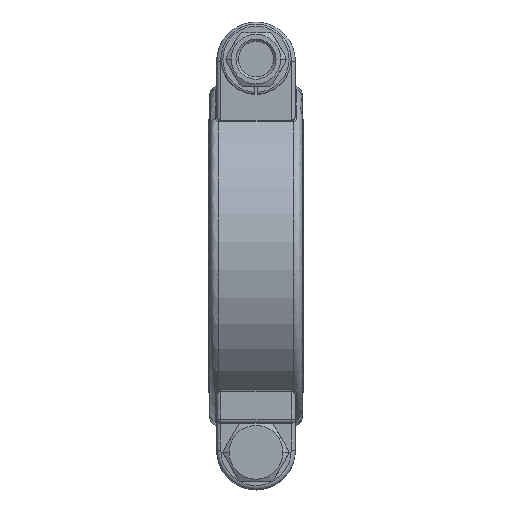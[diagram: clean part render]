
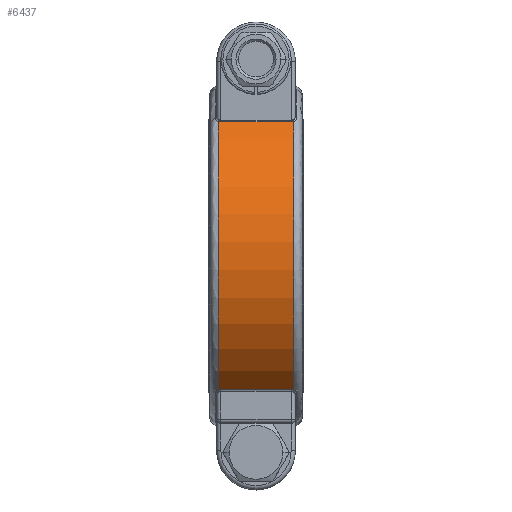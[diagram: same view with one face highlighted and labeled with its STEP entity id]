
A CAD part, top view. The second image highlights one B-rep face of the part: STEP entity #6437.
In plain terms, the highlighted cylindrical face has radius 41 mm (diameter 82 mm), a partial arc.
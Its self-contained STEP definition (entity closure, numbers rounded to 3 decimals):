
#2077=CARTESIAN_POINT('',(-2.35,0.,0.));
#2078=DIRECTION('',(-1.,0.,0.));
#2079=DIRECTION('',(0.,-0.792,0.611));
#2080=AXIS2_PLACEMENT_3D('',#2077,#2078,#2079);
#2082=CARTESIAN_POINT('',(-2.35,32.46,25.047));
#2163=CARTESIAN_POINT('',(-20.,-32.347,
25.193));
#2164=CARTESIAN_POINT('',(-20.053,-32.347,
25.193));
#2165=CARTESIAN_POINT('',(-20.16,-32.351,
25.187));
#2166=CARTESIAN_POINT('',(-20.323,-32.371,
25.161));
#2167=CARTESIAN_POINT('',(-20.486,-32.406,
25.116));
#2168=CARTESIAN_POINT('',(-20.595,-32.44,
25.072));
#2169=CARTESIAN_POINT('',(-20.65,-32.46,
25.047));
#2171=CARTESIAN_POINT('',(-20.65,0.,0.));
#2172=DIRECTION('',(-1.,0.,0.));
#2173=DIRECTION('',(0.,-0.792,0.611));
#2174=AXIS2_PLACEMENT_3D('',#2171,#2172,#2173);
#2176=CARTESIAN_POINT('',(-20.65,32.46,25.047));
#2177=CARTESIAN_POINT('',(-20.577,32.434,25.081));
#2178=CARTESIAN_POINT('',(-20.432,32.391,25.136));
#2179=CARTESIAN_POINT('',(-20.214,32.355,25.183));
#2180=CARTESIAN_POINT('',(-20.071,32.347,25.193));
#2181=CARTESIAN_POINT('',(-20.,32.347,25.193));
#2183=DIRECTION('',(1.,0.,0.));
#2184=VECTOR('',#2183,17.);
#2185=CARTESIAN_POINT('',(-20.,32.347,25.193));
#2186=LINE('',#2185,#2184);
#2187=CARTESIAN_POINT('',(-3.,32.347,25.193));
#2188=CARTESIAN_POINT('',(-2.929,32.347,25.193));
#2189=CARTESIAN_POINT('',(-2.786,32.355,25.183));
#2190=CARTESIAN_POINT('',(-2.568,32.391,25.136));
#2191=CARTESIAN_POINT('',(-2.423,32.434,25.081));
#2192=CARTESIAN_POINT('',(-2.35,32.46,25.047));
#2194=CARTESIAN_POINT('',(-2.35,-32.46,
25.047));
#2195=CARTESIAN_POINT('',(-2.405,-32.44,
25.072));
#2196=CARTESIAN_POINT('',(-2.514,-32.406,
25.116));
#2197=CARTESIAN_POINT('',(-2.678,-32.371,
25.161));
#2198=CARTESIAN_POINT('',(-2.84,-32.351,
25.187));
#2199=CARTESIAN_POINT('',(-2.947,-32.347,
25.193));
#2200=CARTESIAN_POINT('',(-3.,-32.347,
25.193));
#2202=DIRECTION('',(-1.,0.,0.));
#2203=VECTOR('',#2202,17.);
#2204=CARTESIAN_POINT('',(-3.,-32.347,
25.193));
#2205=LINE('',#2204,#2203);
#2343=CARTESIAN_POINT('',(-20.65,-32.46,
25.047));
#3535=VERTEX_POINT('',#2082);
#3537=VERTEX_POINT('',#2187);
#3539=CARTESIAN_POINT('',(-20.,32.347,25.193));
#3540=VERTEX_POINT('',#3539);
#3543=VERTEX_POINT('',#2176);
#3559=VERTEX_POINT('',#2343);
#3561=VERTEX_POINT('',#2163);
#3563=CARTESIAN_POINT('',(-3.,-32.347,
25.193));
#3564=VERTEX_POINT('',#3563);
#3567=VERTEX_POINT('',#2194);
#6416=CARTESIAN_POINT('',(1.15,0.,0.));
#6417=DIRECTION('',(-1.,0.,0.));
#6418=DIRECTION('',(0.,1.,0.));
#6419=AXIS2_PLACEMENT_3D('',#6416,#6417,#6418);
#6420=CYLINDRICAL_SURFACE('',#6419,41.);
#6422=ORIENTED_EDGE('',*,*,#6421,.T.);
#6424=ORIENTED_EDGE('',*,*,#6423,.T.);
#6426=ORIENTED_EDGE('',*,*,#6425,.T.);
#6428=ORIENTED_EDGE('',*,*,#6427,.T.);
#6430=ORIENTED_EDGE('',*,*,#6429,.T.);
#6431=ORIENTED_EDGE('',*,*,#6281,.F.);
#6432=ORIENTED_EDGE('',*,*,#6407,.T.);
#6434=ORIENTED_EDGE('',*,*,#6433,.T.);
#6435=EDGE_LOOP('',(#6422,#6424,#6426,#6428,#6430,#6431,#6432,#6434));
#6436=FACE_OUTER_BOUND('',#6435,.F.);
#6437=ADVANCED_FACE('',(#6436),#6420,.T.);
#2081=CIRCLE('',#2080,41.);
#2170=B_SPLINE_CURVE_WITH_KNOTS('',3,(#2163,#2164,#2165,#2166,#2167,#2168,
#2169),.UNSPECIFIED.,.F.,.F.,(4,1,1,1,4),(0.,0.25,0.5,0.75,1.),
.UNSPECIFIED.);
#2175=CIRCLE('',#2174,41.);
#2182=B_SPLINE_CURVE_WITH_KNOTS('',3,(#2176,#2177,#2178,#2179,#2180,#2181),
.UNSPECIFIED.,.F.,.F.,(4,1,1,4),(0.,0.333,0.667,1.),
.UNSPECIFIED.);
#2193=B_SPLINE_CURVE_WITH_KNOTS('',3,(#2187,#2188,#2189,#2190,#2191,#2192),
.UNSPECIFIED.,.F.,.F.,(4,1,1,4),(0.,0.333,0.667,1.),
.UNSPECIFIED.);
#2201=B_SPLINE_CURVE_WITH_KNOTS('',3,(#2194,#2195,#2196,#2197,#2198,#2199,
#2200),.UNSPECIFIED.,.F.,.F.,(4,1,1,1,4),(0.,0.25,0.5,0.75,1.),
.UNSPECIFIED.);
#6281=EDGE_CURVE('',#3567,#3535,#2081,.T.);
#6407=EDGE_CURVE('',#3567,#3564,#2201,.T.);
#6421=EDGE_CURVE('',#3561,#3559,#2170,.T.);
#6423=EDGE_CURVE('',#3559,#3543,#2175,.T.);
#6425=EDGE_CURVE('',#3543,#3540,#2182,.T.);
#6427=EDGE_CURVE('',#3540,#3537,#2186,.T.);
#6429=EDGE_CURVE('',#3537,#3535,#2193,.T.);
#6433=EDGE_CURVE('',#3564,#3561,#2205,.T.);
